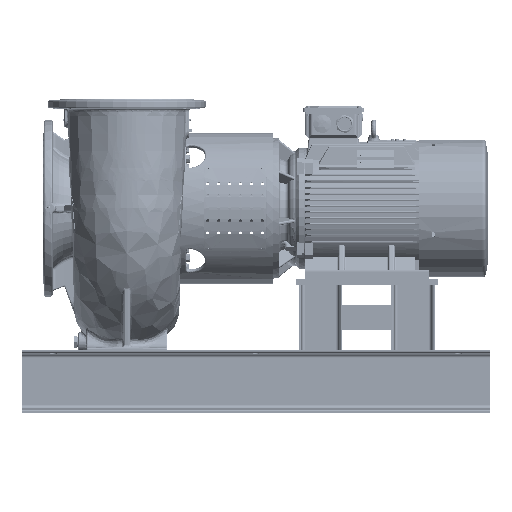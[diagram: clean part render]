
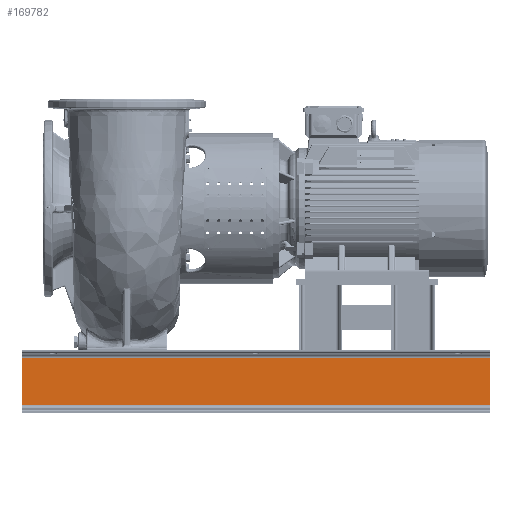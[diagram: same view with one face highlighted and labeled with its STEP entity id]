
A CAD part, top view. The second image highlights one B-rep face of the part: STEP entity #169782.
In plain terms, the highlighted planar face has unit normal (0, 0, 1) as drawn and (1, 0, 0) by its records, which use the part's own axes.
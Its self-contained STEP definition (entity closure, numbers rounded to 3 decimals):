
#162938=DIRECTION('',(0.,1.,0.));
#162939=VECTOR('',#162938,149.535);
#162940=CARTESIAN_POINT('',(458.5,25.232,0.));
#162941=LINE('',#162940,#162939);
#164722=DIRECTION('',(0.,1.,0.));
#164723=VECTOR('',#164722,149.535);
#164724=CARTESIAN_POINT('',(458.5,25.232,-1500.));
#164725=LINE('',#164724,#164723);
#165252=DIRECTION('',(0.,0.,-1.));
#165253=VECTOR('',#165252,1500.);
#165254=CARTESIAN_POINT('',(458.5,25.232,0.));
#165255=LINE('',#165254,#165253);
#165256=DIRECTION('',(0.,0.,-1.));
#165257=VECTOR('',#165256,1500.);
#165258=CARTESIAN_POINT('',(458.5,174.768,0.));
#165259=LINE('',#165258,#165257);
#166748=CARTESIAN_POINT('',(458.5,25.232,0.));
#166749=VERTEX_POINT('',#166748);
#166750=CARTESIAN_POINT('',(458.5,174.768,0.));
#166751=VERTEX_POINT('',#166750);
#166776=CARTESIAN_POINT('',(458.5,25.232,-1500.));
#166777=VERTEX_POINT('',#166776);
#166778=CARTESIAN_POINT('',(458.5,174.768,-1500.));
#166779=VERTEX_POINT('',#166778);
#169770=CARTESIAN_POINT('',(458.5,25.232,0.));
#169771=DIRECTION('',(1.,0.,0.));
#169772=DIRECTION('',(0.,1.,0.));
#169773=AXIS2_PLACEMENT_3D('',#169770,#169771,#169772);
#169774=PLANE('',#169773);
#169775=ORIENTED_EDGE('',*,*,#167529,.T.);
#169777=ORIENTED_EDGE('',*,*,#169776,.T.);
#169778=ORIENTED_EDGE('',*,*,#169371,.F.);
#169779=ORIENTED_EDGE('',*,*,#169763,.F.);
#169780=EDGE_LOOP('',(#169775,#169777,#169778,#169779));
#169781=FACE_OUTER_BOUND('',#169780,.F.);
#169782=ADVANCED_FACE('',(#169781),#169774,.T.);
#167529=EDGE_CURVE('',#166749,#166751,#162941,.T.);
#169371=EDGE_CURVE('',#166777,#166779,#164725,.T.);
#169763=EDGE_CURVE('',#166749,#166777,#165255,.T.);
#169776=EDGE_CURVE('',#166751,#166779,#165259,.T.);
